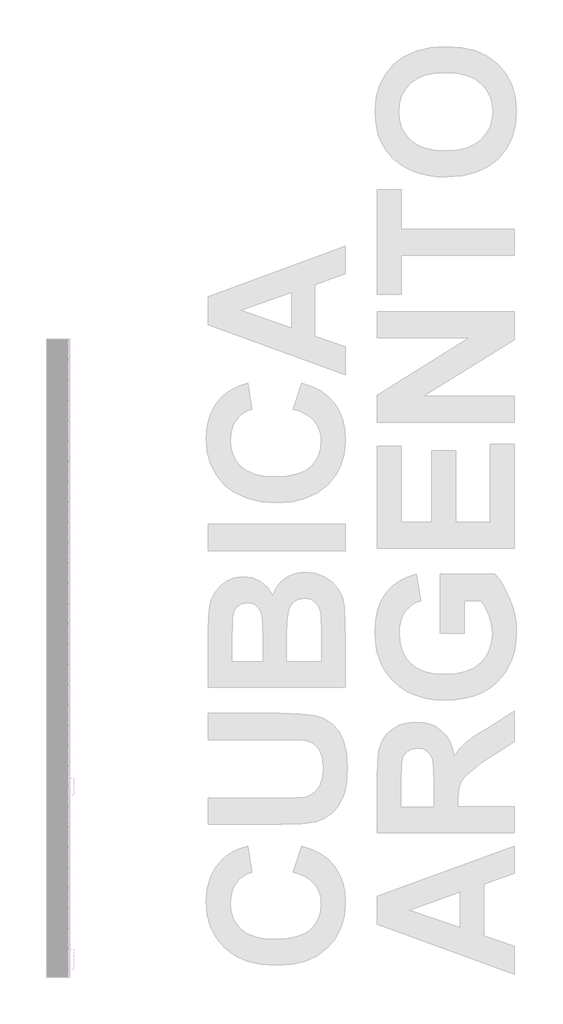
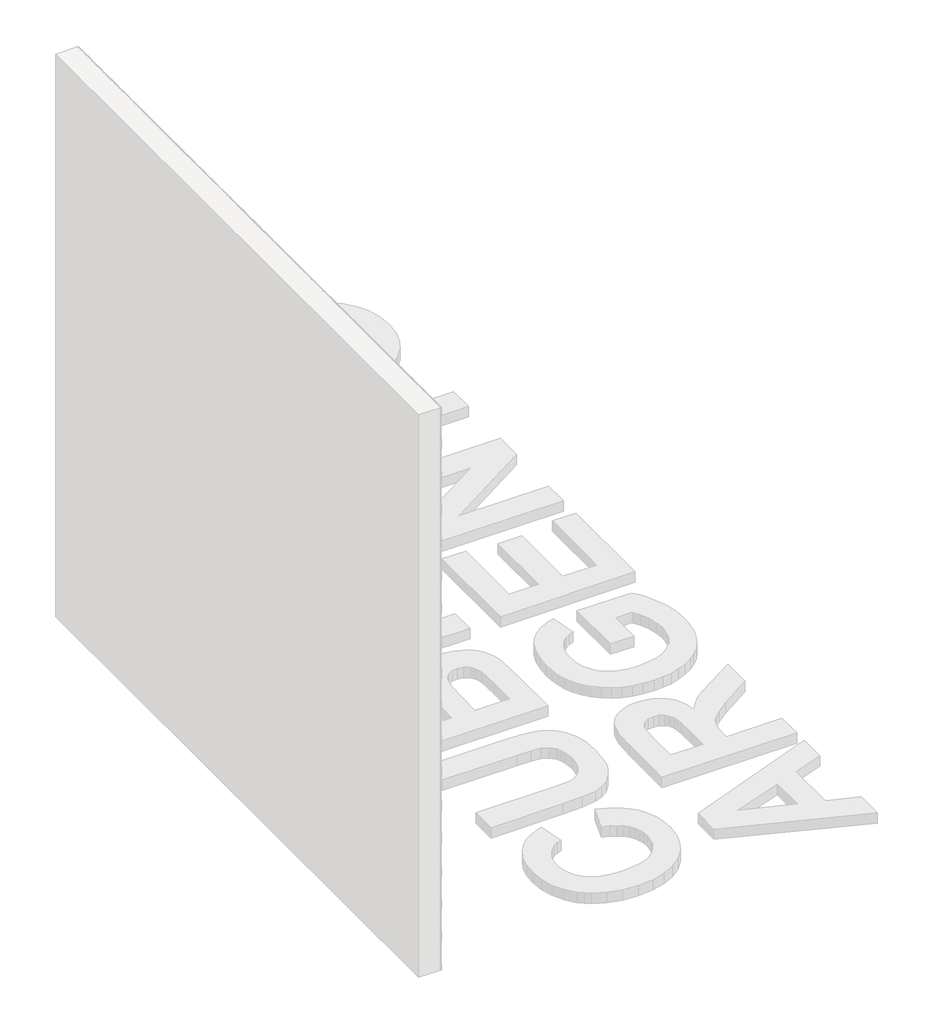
# One storey, part 17 of 121: 145 proxies.
"""IFC4 building model written with IfcOpenShell, lengths in millimetres."""

from ifc_helpers import new_model, si_unit, origin, place, context, project, spatial, transform, mapped, element, save
from components import generic_models_b2b2c5c1, generic_models_9bf73f6f, generic_models_5d175859

model = new_model("IFC4")

# Units and contexts
model_context = context("Model", 3, world=origin())
ifc_project = project(units=[si_unit("LENGTHUNIT", "METRE", prefix="MILLI")], contexts=[model_context])

# Site, building, storey
site = spatial("IfcSite", under=ifc_project)
building = spatial("IfcBuilding", under=site)
storey = spatial("IfcBuildingStorey", under=building, Name="PORTOBELLO - SHOWROOM", Elevation=0.0)

# Proxies
placement = place(None, origin())
generic_models_shape = generic_models_b2b2c5c1(model_context)
element("IfcBuildingElementProxy", 1, Name="PBSHOP - CUBICA ARGENTO 4,8X8,3 : CUBICA ARGENTO - POSIÇÃO 01", ObjectType="PBSHOP - CUBICA ARGENTO 4,8X8,3 : CUBICA ARGENTO - POSIÇÃO 01", at=placement, inside=storey, context=model_context, shape_type="MappedRepresentation", body=[
    mapped(generic_models_shape, transform((150369.5341846, -4950.0239465, 1460.2456575), x_axis=(0.0, 1.0, 0.0), y_axis=(0.0, 0.0, 1.0), z_axis=(1.0, 0.0, 0.0))),
])
element("IfcBuildingElementProxy", 2, Name="PBSHOP - CUBICA ARGENTO 4,8X8,3 : CUBICA ARGENTO - POSIÇÃO 01", ObjectType="PBSHOP - CUBICA ARGENTO 4,8X8,3 : CUBICA ARGENTO - POSIÇÃO 01", at=placement, inside=storey, context=model_context, shape_type="MappedRepresentation", body=[
    mapped(generic_models_shape, transform((150369.5341846, -4859.1846773, 1460.2456575), x_axis=(0.0, 1.0, 0.0), y_axis=(0.0, 0.0, 1.0), z_axis=(1.0, 0.0, 0.0))),
])
element("IfcBuildingElementProxy", 3, Name="PBSHOP - CUBICA ARGENTO 4,8X8,3 : CUBICA ARGENTO - POSIÇÃO 01", ObjectType="PBSHOP - CUBICA ARGENTO 4,8X8,3 : CUBICA ARGENTO - POSIÇÃO 01", at=placement, inside=storey, context=model_context, shape_type="MappedRepresentation", body=[
    mapped(generic_models_shape, transform((150369.5341846, -4768.345408, 1460.2456575), x_axis=(0.0, 1.0, 0.0), y_axis=(0.0, 0.0, 1.0), z_axis=(1.0, 0.0, 0.0))),
])
element("IfcBuildingElementProxy", 4, Name="PBSHOP - CUBICA ARGENTO 4,8X8,3 : CUBICA ARGENTO - POSIÇÃO 01", ObjectType="PBSHOP - CUBICA ARGENTO 4,8X8,3 : CUBICA ARGENTO - POSIÇÃO 01", at=placement, inside=storey, context=model_context, shape_type="MappedRepresentation", body=[
    mapped(generic_models_shape, transform((150369.5341846, -4677.5061388, 1460.2456575), x_axis=(0.0, 1.0, 0.0), y_axis=(0.0, 0.0, 1.0), z_axis=(1.0, 0.0, 0.0))),
])
element("IfcBuildingElementProxy", 5, Name="PBSHOP - CUBICA ARGENTO 4,8X8,3 : CUBICA ARGENTO - POSIÇÃO 01", ObjectType="PBSHOP - CUBICA ARGENTO 4,8X8,3 : CUBICA ARGENTO - POSIÇÃO 01", at=placement, inside=storey, context=model_context, shape_type="MappedRepresentation", body=[
    mapped(generic_models_shape, transform((150369.5341846, -4586.6668696, 1460.2456575), x_axis=(0.0, 1.0, 0.0), y_axis=(0.0, 0.0, 1.0), z_axis=(1.0, 0.0, 0.0))),
])
element("IfcBuildingElementProxy", 6, Name="PBSHOP - CUBICA ARGENTO 4,8X8,3 : CUBICA ARGENTO - POSIÇÃO 01", ObjectType="PBSHOP - CUBICA ARGENTO 4,8X8,3 : CUBICA ARGENTO - POSIÇÃO 01", at=placement, inside=storey, context=model_context, shape_type="MappedRepresentation", body=[
    mapped(generic_models_shape, transform((150369.5341846, -4495.8276003, 1460.2456575), x_axis=(0.0, 1.0, 0.0), y_axis=(0.0, 0.0, 1.0), z_axis=(1.0, 0.0, 0.0))),
])
element("IfcBuildingElementProxy", 7, Name="PBSHOP - CUBICA ARGENTO 4,8X8,3 : CUBICA ARGENTO - POSIÇÃO 01", ObjectType="PBSHOP - CUBICA ARGENTO 4,8X8,3 : CUBICA ARGENTO - POSIÇÃO 01", at=placement, inside=storey, context=model_context, shape_type="MappedRepresentation", body=[
    mapped(generic_models_shape, transform((150369.5341846, -4404.9883311, 1460.2456575), x_axis=(0.0, 1.0, 0.0), y_axis=(0.0, 0.0, 1.0), z_axis=(1.0, 0.0, 0.0))),
])
element("IfcBuildingElementProxy", 8, Name="PBSHOP - CUBICA ARGENTO 4,8X8,3 : CUBICA ARGENTO - POSIÇÃO 01", ObjectType="PBSHOP - CUBICA ARGENTO 4,8X8,3 : CUBICA ARGENTO - POSIÇÃO 01", at=placement, inside=storey, context=model_context, shape_type="MappedRepresentation", body=[
    mapped(generic_models_shape, transform((150369.5341846, -4314.1490618, 1460.2456575), x_axis=(0.0, 1.0, 0.0), y_axis=(0.0, 0.0, 1.0), z_axis=(1.0, 0.0, 0.0))),
])
element("IfcBuildingElementProxy", 9, Name="PBSHOP - CUBICA ARGENTO 4,8X8,3 : CUBICA ARGENTO - POSIÇÃO 01", ObjectType="PBSHOP - CUBICA ARGENTO 4,8X8,3 : CUBICA ARGENTO - POSIÇÃO 01", at=placement, inside=storey, context=model_context, shape_type="MappedRepresentation", body=[
    mapped(generic_models_shape, transform((150369.5341846, -4223.3097926, 1460.2456575), x_axis=(0.0, 1.0, 0.0), y_axis=(0.0, 0.0, 1.0), z_axis=(1.0, 0.0, 0.0))),
])
element("IfcBuildingElementProxy", 10, Name="PBSHOP - CUBICA ARGENTO 4,8X8,3 : CUBICA ARGENTO - POSIÇÃO 01", ObjectType="PBSHOP - CUBICA ARGENTO 4,8X8,3 : CUBICA ARGENTO - POSIÇÃO 01", at=placement, inside=storey, context=model_context, shape_type="MappedRepresentation", body=[
    mapped(generic_models_shape, transform((150369.5341846, -4132.4705233, 1460.2456575), x_axis=(0.0, 1.0, 0.0), y_axis=(0.0, 0.0, 1.0), z_axis=(1.0, 0.0, 0.0))),
])
element("IfcBuildingElementProxy", 11, Name="PBSHOP - CUBICA ARGENTO 4,8X8,3 : CUBICA ARGENTO - POSIÇÃO 01", ObjectType="PBSHOP - CUBICA ARGENTO 4,8X8,3 : CUBICA ARGENTO - POSIÇÃO 01", at=placement, inside=storey, context=model_context, shape_type="MappedRepresentation", body=[
    mapped(generic_models_shape, transform((150369.5341846, -4041.6312541, 1460.2456575), x_axis=(0.0, 1.0, 0.0), y_axis=(0.0, 0.0, 1.0), z_axis=(1.0, 0.0, 0.0))),
])
element("IfcBuildingElementProxy", 12, Name="PBSHOP - CUBICA ARGENTO 4,8X8,3 : CUBICA ARGENTO - POSIÇÃO 01", ObjectType="PBSHOP - CUBICA ARGENTO 4,8X8,3 : CUBICA ARGENTO - POSIÇÃO 01", at=placement, inside=storey, context=model_context, shape_type="MappedRepresentation", body=[
    mapped(generic_models_shape, transform((150369.5341846, -4995.4435811, 1539.1802959), x_axis=(0.0, 1.0, 0.0), y_axis=(0.0, 0.0, 1.0), z_axis=(1.0, 0.0, 0.0))),
])
element("IfcBuildingElementProxy", 13, Name="PBSHOP - CUBICA ARGENTO 4,8X8,3 : CUBICA ARGENTO - POSIÇÃO 01", ObjectType="PBSHOP - CUBICA ARGENTO 4,8X8,3 : CUBICA ARGENTO - POSIÇÃO 01", at=placement, inside=storey, context=model_context, shape_type="MappedRepresentation", body=[
    mapped(generic_models_shape, transform((150369.5341846, -4904.6043119, 1539.1802959), x_axis=(0.0, 1.0, 0.0), y_axis=(0.0, 0.0, 1.0), z_axis=(1.0, 0.0, 0.0))),
])
element("IfcBuildingElementProxy", 14, Name="PBSHOP - CUBICA ARGENTO 4,8X8,3 : CUBICA ARGENTO - POSIÇÃO 01", ObjectType="PBSHOP - CUBICA ARGENTO 4,8X8,3 : CUBICA ARGENTO - POSIÇÃO 01", at=placement, inside=storey, context=model_context, shape_type="MappedRepresentation", body=[
    mapped(generic_models_shape, transform((150369.5341846, -4813.7650427, 1539.1802959), x_axis=(0.0, 1.0, 0.0), y_axis=(0.0, 0.0, 1.0), z_axis=(1.0, 0.0, 0.0))),
])
element("IfcBuildingElementProxy", 15, Name="PBSHOP - CUBICA ARGENTO 4,8X8,3 : CUBICA ARGENTO - POSIÇÃO 01", ObjectType="PBSHOP - CUBICA ARGENTO 4,8X8,3 : CUBICA ARGENTO - POSIÇÃO 01", at=placement, inside=storey, context=model_context, shape_type="MappedRepresentation", body=[
    mapped(generic_models_shape, transform((150369.5341846, -4722.9257734, 1539.1802959), x_axis=(0.0, 1.0, 0.0), y_axis=(0.0, 0.0, 1.0), z_axis=(1.0, 0.0, 0.0))),
])
element("IfcBuildingElementProxy", 16, Name="PBSHOP - CUBICA ARGENTO 4,8X8,3 : CUBICA ARGENTO - POSIÇÃO 01", ObjectType="PBSHOP - CUBICA ARGENTO 4,8X8,3 : CUBICA ARGENTO - POSIÇÃO 01", at=placement, inside=storey, context=model_context, shape_type="MappedRepresentation", body=[
    mapped(generic_models_shape, transform((150369.5341846, -4632.0865042, 1539.1802959), x_axis=(0.0, 1.0, 0.0), y_axis=(0.0, 0.0, 1.0), z_axis=(1.0, 0.0, 0.0))),
])
element("IfcBuildingElementProxy", 17, Name="PBSHOP - CUBICA ARGENTO 4,8X8,3 : CUBICA ARGENTO - POSIÇÃO 01", ObjectType="PBSHOP - CUBICA ARGENTO 4,8X8,3 : CUBICA ARGENTO - POSIÇÃO 01", at=placement, inside=storey, context=model_context, shape_type="MappedRepresentation", body=[
    mapped(generic_models_shape, transform((150369.5341846, -4541.2472349, 1539.1802959), x_axis=(0.0, 1.0, 0.0), y_axis=(0.0, 0.0, 1.0), z_axis=(1.0, 0.0, 0.0))),
])
element("IfcBuildingElementProxy", 18, Name="PBSHOP - CUBICA ARGENTO 4,8X8,3 : CUBICA ARGENTO - POSIÇÃO 01", ObjectType="PBSHOP - CUBICA ARGENTO 4,8X8,3 : CUBICA ARGENTO - POSIÇÃO 01", at=placement, inside=storey, context=model_context, shape_type="MappedRepresentation", body=[
    mapped(generic_models_shape, transform((150369.5341846, -4450.4079657, 1539.1802959), x_axis=(0.0, 1.0, 0.0), y_axis=(0.0, 0.0, 1.0), z_axis=(1.0, 0.0, 0.0))),
])
element("IfcBuildingElementProxy", 19, Name="PBSHOP - CUBICA ARGENTO 4,8X8,3 : CUBICA ARGENTO - POSIÇÃO 01", ObjectType="PBSHOP - CUBICA ARGENTO 4,8X8,3 : CUBICA ARGENTO - POSIÇÃO 01", at=placement, inside=storey, context=model_context, shape_type="MappedRepresentation", body=[
    mapped(generic_models_shape, transform((150369.5341846, -4359.5686964, 1539.1802959), x_axis=(0.0, 1.0, 0.0), y_axis=(0.0, 0.0, 1.0), z_axis=(1.0, 0.0, 0.0))),
])
element("IfcBuildingElementProxy", 20, Name="PBSHOP - CUBICA ARGENTO 4,8X8,3 : CUBICA ARGENTO - POSIÇÃO 01", ObjectType="PBSHOP - CUBICA ARGENTO 4,8X8,3 : CUBICA ARGENTO - POSIÇÃO 01", at=placement, inside=storey, context=model_context, shape_type="MappedRepresentation", body=[
    mapped(generic_models_shape, transform((150369.5341846, -4268.7294272, 1539.1802959), x_axis=(0.0, 1.0, 0.0), y_axis=(0.0, 0.0, 1.0), z_axis=(1.0, 0.0, 0.0))),
])
element("IfcBuildingElementProxy", 21, Name="PBSHOP - CUBICA ARGENTO 4,8X8,3 : CUBICA ARGENTO - POSIÇÃO 01", ObjectType="PBSHOP - CUBICA ARGENTO 4,8X8,3 : CUBICA ARGENTO - POSIÇÃO 01", at=placement, inside=storey, context=model_context, shape_type="MappedRepresentation", body=[
    mapped(generic_models_shape, transform((150369.5341846, -4177.890158, 1539.1802959), x_axis=(0.0, 1.0, 0.0), y_axis=(0.0, 0.0, 1.0), z_axis=(1.0, 0.0, 0.0))),
])
element("IfcBuildingElementProxy", 22, Name="PBSHOP - CUBICA ARGENTO 4,8X8,3 : CUBICA ARGENTO - POSIÇÃO 01", ObjectType="PBSHOP - CUBICA ARGENTO 4,8X8,3 : CUBICA ARGENTO - POSIÇÃO 01", at=placement, inside=storey, context=model_context, shape_type="MappedRepresentation", body=[
    mapped(generic_models_shape, transform((150369.5341846, -4087.0508887, 1539.1802959), x_axis=(0.0, 1.0, 0.0), y_axis=(0.0, 0.0, 1.0), z_axis=(1.0, 0.0, 0.0))),
])
element("IfcBuildingElementProxy", 23, Name="PBSHOP - CUBICA ARGENTO 4,8X8,3 : CUBICA ARGENTO - POSIÇÃO 01", ObjectType="PBSHOP - CUBICA ARGENTO 4,8X8,3 : CUBICA ARGENTO - POSIÇÃO 01", at=placement, inside=storey, context=model_context, shape_type="MappedRepresentation", body=[
    mapped(generic_models_shape, transform((150369.5341846, -4950.0239465, 1618.1149343), x_axis=(0.0, 1.0, 0.0), y_axis=(0.0, 0.0, 1.0), z_axis=(1.0, 0.0, 0.0))),
])
element("IfcBuildingElementProxy", 24, Name="PBSHOP - CUBICA ARGENTO 4,8X8,3 : CUBICA ARGENTO - POSIÇÃO 01", ObjectType="PBSHOP - CUBICA ARGENTO 4,8X8,3 : CUBICA ARGENTO - POSIÇÃO 01", at=placement, inside=storey, context=model_context, shape_type="MappedRepresentation", body=[
    mapped(generic_models_shape, transform((150369.5341846, -4859.1846773, 1618.1149343), x_axis=(0.0, 1.0, 0.0), y_axis=(0.0, 0.0, 1.0), z_axis=(1.0, 0.0, 0.0))),
])
element("IfcBuildingElementProxy", 25, Name="PBSHOP - CUBICA ARGENTO 4,8X8,3 : CUBICA ARGENTO - POSIÇÃO 01", ObjectType="PBSHOP - CUBICA ARGENTO 4,8X8,3 : CUBICA ARGENTO - POSIÇÃO 01", at=placement, inside=storey, context=model_context, shape_type="MappedRepresentation", body=[
    mapped(generic_models_shape, transform((150369.5341846, -4768.345408, 1618.1149343), x_axis=(0.0, 1.0, 0.0), y_axis=(0.0, 0.0, 1.0), z_axis=(1.0, 0.0, 0.0))),
])
element("IfcBuildingElementProxy", 26, Name="PBSHOP - CUBICA ARGENTO 4,8X8,3 : CUBICA ARGENTO - POSIÇÃO 01", ObjectType="PBSHOP - CUBICA ARGENTO 4,8X8,3 : CUBICA ARGENTO - POSIÇÃO 01", at=placement, inside=storey, context=model_context, shape_type="MappedRepresentation", body=[
    mapped(generic_models_shape, transform((150369.5341846, -4677.5061388, 1618.1149343), x_axis=(0.0, 1.0, 0.0), y_axis=(0.0, 0.0, 1.0), z_axis=(1.0, 0.0, 0.0))),
])
element("IfcBuildingElementProxy", 27, Name="PBSHOP - CUBICA ARGENTO 4,8X8,3 : CUBICA ARGENTO - POSIÇÃO 01", ObjectType="PBSHOP - CUBICA ARGENTO 4,8X8,3 : CUBICA ARGENTO - POSIÇÃO 01", at=placement, inside=storey, context=model_context, shape_type="MappedRepresentation", body=[
    mapped(generic_models_shape, transform((150369.5341846, -4586.6668696, 1618.1149343), x_axis=(0.0, 1.0, 0.0), y_axis=(0.0, 0.0, 1.0), z_axis=(1.0, 0.0, 0.0))),
])
element("IfcBuildingElementProxy", 28, Name="PBSHOP - CUBICA ARGENTO 4,8X8,3 : CUBICA ARGENTO - POSIÇÃO 01", ObjectType="PBSHOP - CUBICA ARGENTO 4,8X8,3 : CUBICA ARGENTO - POSIÇÃO 01", at=placement, inside=storey, context=model_context, shape_type="MappedRepresentation", body=[
    mapped(generic_models_shape, transform((150369.5341846, -4495.8276003, 1618.1149343), x_axis=(0.0, 1.0, 0.0), y_axis=(0.0, 0.0, 1.0), z_axis=(1.0, 0.0, 0.0))),
])
element("IfcBuildingElementProxy", 29, Name="PBSHOP - CUBICA ARGENTO 4,8X8,3 : CUBICA ARGENTO - POSIÇÃO 01", ObjectType="PBSHOP - CUBICA ARGENTO 4,8X8,3 : CUBICA ARGENTO - POSIÇÃO 01", at=placement, inside=storey, context=model_context, shape_type="MappedRepresentation", body=[
    mapped(generic_models_shape, transform((150369.5341846, -4404.9883311, 1618.1149343), x_axis=(0.0, 1.0, 0.0), y_axis=(0.0, 0.0, 1.0), z_axis=(1.0, 0.0, 0.0))),
])
element("IfcBuildingElementProxy", 30, Name="PBSHOP - CUBICA ARGENTO 4,8X8,3 : CUBICA ARGENTO - POSIÇÃO 01", ObjectType="PBSHOP - CUBICA ARGENTO 4,8X8,3 : CUBICA ARGENTO - POSIÇÃO 01", at=placement, inside=storey, context=model_context, shape_type="MappedRepresentation", body=[
    mapped(generic_models_shape, transform((150369.5341846, -4314.1490618, 1618.1149343), x_axis=(0.0, 1.0, 0.0), y_axis=(0.0, 0.0, 1.0), z_axis=(1.0, 0.0, 0.0))),
])
element("IfcBuildingElementProxy", 31, Name="PBSHOP - CUBICA ARGENTO 4,8X8,3 : CUBICA ARGENTO - POSIÇÃO 01", ObjectType="PBSHOP - CUBICA ARGENTO 4,8X8,3 : CUBICA ARGENTO - POSIÇÃO 01", at=placement, inside=storey, context=model_context, shape_type="MappedRepresentation", body=[
    mapped(generic_models_shape, transform((150369.5341846, -4223.3097926, 1618.1149343), x_axis=(0.0, 1.0, 0.0), y_axis=(0.0, 0.0, 1.0), z_axis=(1.0, 0.0, 0.0))),
])
element("IfcBuildingElementProxy", 32, Name="PBSHOP - CUBICA ARGENTO 4,8X8,3 : CUBICA ARGENTO - POSIÇÃO 01", ObjectType="PBSHOP - CUBICA ARGENTO 4,8X8,3 : CUBICA ARGENTO - POSIÇÃO 01", at=placement, inside=storey, context=model_context, shape_type="MappedRepresentation", body=[
    mapped(generic_models_shape, transform((150369.5341846, -4132.4705233, 1618.1149343), x_axis=(0.0, 1.0, 0.0), y_axis=(0.0, 0.0, 1.0), z_axis=(1.0, 0.0, 0.0))),
])
element("IfcBuildingElementProxy", 33, Name="PBSHOP - CUBICA ARGENTO 4,8X8,3 : CUBICA ARGENTO - POSIÇÃO 01", ObjectType="PBSHOP - CUBICA ARGENTO 4,8X8,3 : CUBICA ARGENTO - POSIÇÃO 01", at=placement, inside=storey, context=model_context, shape_type="MappedRepresentation", body=[
    mapped(generic_models_shape, transform((150369.5341846, -4041.6312541, 1618.1149343), x_axis=(0.0, 1.0, 0.0), y_axis=(0.0, 0.0, 1.0), z_axis=(1.0, 0.0, 0.0))),
])
element("IfcBuildingElementProxy", 34, Name="PBSHOP - CUBICA ARGENTO 4,8X8,3 : CUBICA ARGENTO - POSIÇÃO 01", ObjectType="PBSHOP - CUBICA ARGENTO 4,8X8,3 : CUBICA ARGENTO - POSIÇÃO 01", at=placement, inside=storey, context=model_context, shape_type="MappedRepresentation", body=[
    mapped(generic_models_shape, transform((150369.5341846, -4995.4435811, 1697.0495727), x_axis=(0.0, 1.0, 0.0), y_axis=(0.0, 0.0, 1.0), z_axis=(1.0, 0.0, 0.0))),
])
element("IfcBuildingElementProxy", 35, Name="PBSHOP - CUBICA ARGENTO 4,8X8,3 : CUBICA ARGENTO - POSIÇÃO 01", ObjectType="PBSHOP - CUBICA ARGENTO 4,8X8,3 : CUBICA ARGENTO - POSIÇÃO 01", at=placement, inside=storey, context=model_context, shape_type="MappedRepresentation", body=[
    mapped(generic_models_shape, transform((150369.5341846, -4904.6043119, 1697.0495727), x_axis=(0.0, 1.0, 0.0), y_axis=(0.0, 0.0, 1.0), z_axis=(1.0, 0.0, 0.0))),
])
element("IfcBuildingElementProxy", 36, Name="PBSHOP - CUBICA ARGENTO 4,8X8,3 : CUBICA ARGENTO - POSIÇÃO 01", ObjectType="PBSHOP - CUBICA ARGENTO 4,8X8,3 : CUBICA ARGENTO - POSIÇÃO 01", at=placement, inside=storey, context=model_context, shape_type="MappedRepresentation", body=[
    mapped(generic_models_shape, transform((150369.5341846, -4813.7650427, 1697.0495727), x_axis=(0.0, 1.0, 0.0), y_axis=(0.0, 0.0, 1.0), z_axis=(1.0, 0.0, 0.0))),
])
element("IfcBuildingElementProxy", 37, Name="PBSHOP - CUBICA ARGENTO 4,8X8,3 : CUBICA ARGENTO - POSIÇÃO 01", ObjectType="PBSHOP - CUBICA ARGENTO 4,8X8,3 : CUBICA ARGENTO - POSIÇÃO 01", at=placement, inside=storey, context=model_context, shape_type="MappedRepresentation", body=[
    mapped(generic_models_shape, transform((150369.5341846, -4722.9257734, 1697.0495727), x_axis=(0.0, 1.0, 0.0), y_axis=(0.0, 0.0, 1.0), z_axis=(1.0, 0.0, 0.0))),
])
element("IfcBuildingElementProxy", 38, Name="PBSHOP - CUBICA ARGENTO 4,8X8,3 : CUBICA ARGENTO - POSIÇÃO 01", ObjectType="PBSHOP - CUBICA ARGENTO 4,8X8,3 : CUBICA ARGENTO - POSIÇÃO 01", at=placement, inside=storey, context=model_context, shape_type="MappedRepresentation", body=[
    mapped(generic_models_shape, transform((150369.5341846, -4632.0865042, 1697.0495727), x_axis=(0.0, 1.0, 0.0), y_axis=(0.0, 0.0, 1.0), z_axis=(1.0, 0.0, 0.0))),
])
element("IfcBuildingElementProxy", 39, Name="PBSHOP - CUBICA ARGENTO 4,8X8,3 : CUBICA ARGENTO - POSIÇÃO 01", ObjectType="PBSHOP - CUBICA ARGENTO 4,8X8,3 : CUBICA ARGENTO - POSIÇÃO 01", at=placement, inside=storey, context=model_context, shape_type="MappedRepresentation", body=[
    mapped(generic_models_shape, transform((150369.5341846, -4541.2472349, 1697.0495727), x_axis=(0.0, 1.0, 0.0), y_axis=(0.0, 0.0, 1.0), z_axis=(1.0, 0.0, 0.0))),
])
element("IfcBuildingElementProxy", 40, Name="PBSHOP - CUBICA ARGENTO 4,8X8,3 : CUBICA ARGENTO - POSIÇÃO 01", ObjectType="PBSHOP - CUBICA ARGENTO 4,8X8,3 : CUBICA ARGENTO - POSIÇÃO 01", at=placement, inside=storey, context=model_context, shape_type="MappedRepresentation", body=[
    mapped(generic_models_shape, transform((150369.5341846, -4450.4079657, 1697.0495727), x_axis=(0.0, 1.0, 0.0), y_axis=(0.0, 0.0, 1.0), z_axis=(1.0, 0.0, 0.0))),
])
element("IfcBuildingElementProxy", 41, Name="PBSHOP - CUBICA ARGENTO 4,8X8,3 : CUBICA ARGENTO - POSIÇÃO 01", ObjectType="PBSHOP - CUBICA ARGENTO 4,8X8,3 : CUBICA ARGENTO - POSIÇÃO 01", at=placement, inside=storey, context=model_context, shape_type="MappedRepresentation", body=[
    mapped(generic_models_shape, transform((150369.5341846, -4359.5686964, 1697.0495727), x_axis=(0.0, 1.0, 0.0), y_axis=(0.0, 0.0, 1.0), z_axis=(1.0, 0.0, 0.0))),
])
element("IfcBuildingElementProxy", 42, Name="PBSHOP - CUBICA ARGENTO 4,8X8,3 : CUBICA ARGENTO - POSIÇÃO 01", ObjectType="PBSHOP - CUBICA ARGENTO 4,8X8,3 : CUBICA ARGENTO - POSIÇÃO 01", at=placement, inside=storey, context=model_context, shape_type="MappedRepresentation", body=[
    mapped(generic_models_shape, transform((150369.5341846, -4268.7294272, 1697.0495727), x_axis=(0.0, 1.0, 0.0), y_axis=(0.0, 0.0, 1.0), z_axis=(1.0, 0.0, 0.0))),
])
element("IfcBuildingElementProxy", 43, Name="PBSHOP - CUBICA ARGENTO 4,8X8,3 : CUBICA ARGENTO - POSIÇÃO 01", ObjectType="PBSHOP - CUBICA ARGENTO 4,8X8,3 : CUBICA ARGENTO - POSIÇÃO 01", at=placement, inside=storey, context=model_context, shape_type="MappedRepresentation", body=[
    mapped(generic_models_shape, transform((150369.5341846, -4177.890158, 1697.0495727), x_axis=(0.0, 1.0, 0.0), y_axis=(0.0, 0.0, 1.0), z_axis=(1.0, 0.0, 0.0))),
])
element("IfcBuildingElementProxy", 44, Name="PBSHOP - CUBICA ARGENTO 4,8X8,3 : CUBICA ARGENTO - POSIÇÃO 01", ObjectType="PBSHOP - CUBICA ARGENTO 4,8X8,3 : CUBICA ARGENTO - POSIÇÃO 01", at=placement, inside=storey, context=model_context, shape_type="MappedRepresentation", body=[
    mapped(generic_models_shape, transform((150369.5341846, -4087.0508887, 1697.0495727), x_axis=(0.0, 1.0, 0.0), y_axis=(0.0, 0.0, 1.0), z_axis=(1.0, 0.0, 0.0))),
])
element("IfcBuildingElementProxy", 45, Name="PBSHOP - CUBICA ARGENTO 4,8X8,3 : CUBICA ARGENTO - POSIÇÃO 01", ObjectType="PBSHOP - CUBICA ARGENTO 4,8X8,3 : CUBICA ARGENTO - POSIÇÃO 01", at=placement, inside=storey, context=model_context, shape_type="MappedRepresentation", body=[
    mapped(generic_models_shape, transform((150369.5341846, -4950.0239465, 1775.984211), x_axis=(0.0, 1.0, 0.0), y_axis=(0.0, 0.0, 1.0), z_axis=(1.0, 0.0, 0.0))),
])
generic_models_2_shape = generic_models_9bf73f6f(model_context)
element("IfcBuildingElementProxy", 46, Name="PBSHOP - CUBICA ARGENTO 4,8X8,3 : CUBICA ARGENTO - POSIÇÃO 03", ObjectType="PBSHOP - CUBICA ARGENTO 4,8X8,3 : CUBICA ARGENTO - POSIÇÃO 03", at=placement, inside=storey, context=model_context, shape_type="MappedRepresentation", body=[
    mapped(generic_models_2_shape, transform((150369.5341846, -4836.4727008, 1341.8024896), x_axis=(0.0, 1.0, 0.0), y_axis=(0.0, 0.0, 1.0), z_axis=(1.0, 0.0, 0.0))),
])
element("IfcBuildingElementProxy", 47, Name="PBSHOP - CUBICA ARGENTO 4,8X8,3 : CUBICA ARGENTO - POSIÇÃO 03", ObjectType="PBSHOP - CUBICA ARGENTO 4,8X8,3 : CUBICA ARGENTO - POSIÇÃO 03", at=placement, inside=storey, context=model_context, shape_type="MappedRepresentation", body=[
    mapped(generic_models_2_shape, transform((150369.5341846, -4745.6334316, 1341.8024896), x_axis=(0.0, 1.0, 0.0), y_axis=(0.0, 0.0, 1.0), z_axis=(1.0, 0.0, 0.0))),
])
element("IfcBuildingElementProxy", 48, Name="PBSHOP - CUBICA ARGENTO 4,8X8,3 : CUBICA ARGENTO - POSIÇÃO 03", ObjectType="PBSHOP - CUBICA ARGENTO 4,8X8,3 : CUBICA ARGENTO - POSIÇÃO 03", at=placement, inside=storey, context=model_context, shape_type="MappedRepresentation", body=[
    mapped(generic_models_2_shape, transform((150369.5341846, -4654.7941623, 1341.8024896), x_axis=(0.0, 1.0, 0.0), y_axis=(0.0, 0.0, 1.0), z_axis=(1.0, 0.0, 0.0))),
])
element("IfcBuildingElementProxy", 49, Name="PBSHOP - CUBICA ARGENTO 4,8X8,3 : CUBICA ARGENTO - POSIÇÃO 03", ObjectType="PBSHOP - CUBICA ARGENTO 4,8X8,3 : CUBICA ARGENTO - POSIÇÃO 03", at=placement, inside=storey, context=model_context, shape_type="MappedRepresentation", body=[
    mapped(generic_models_2_shape, transform((150369.5341846, -4563.9548931, 1341.8024896), x_axis=(0.0, 1.0, 0.0), y_axis=(0.0, 0.0, 1.0), z_axis=(1.0, 0.0, 0.0))),
])
element("IfcBuildingElementProxy", 50, Name="PBSHOP - CUBICA ARGENTO 4,8X8,3 : CUBICA ARGENTO - POSIÇÃO 03", ObjectType="PBSHOP - CUBICA ARGENTO 4,8X8,3 : CUBICA ARGENTO - POSIÇÃO 03", at=placement, inside=storey, context=model_context, shape_type="MappedRepresentation", body=[
    mapped(generic_models_2_shape, transform((150369.5341846, -4473.1156238, 1341.8024896), x_axis=(0.0, 1.0, 0.0), y_axis=(0.0, 0.0, 1.0), z_axis=(1.0, 0.0, 0.0))),
])
element("IfcBuildingElementProxy", 51, Name="PBSHOP - CUBICA ARGENTO 4,8X8,3 : CUBICA ARGENTO - POSIÇÃO 03", ObjectType="PBSHOP - CUBICA ARGENTO 4,8X8,3 : CUBICA ARGENTO - POSIÇÃO 03", at=placement, inside=storey, context=model_context, shape_type="MappedRepresentation", body=[
    mapped(generic_models_2_shape, transform((150369.5341846, -4382.2763546, 1341.8024896), x_axis=(0.0, 1.0, 0.0), y_axis=(0.0, 0.0, 1.0), z_axis=(1.0, 0.0, 0.0))),
])
element("IfcBuildingElementProxy", 52, Name="PBSHOP - CUBICA ARGENTO 4,8X8,3 : CUBICA ARGENTO - POSIÇÃO 03", ObjectType="PBSHOP - CUBICA ARGENTO 4,8X8,3 : CUBICA ARGENTO - POSIÇÃO 03", at=placement, inside=storey, context=model_context, shape_type="MappedRepresentation", body=[
    mapped(generic_models_2_shape, transform((150369.5341846, -4291.4370853, 1341.8024896), x_axis=(0.0, 1.0, 0.0), y_axis=(0.0, 0.0, 1.0), z_axis=(1.0, 0.0, 0.0))),
])
element("IfcBuildingElementProxy", 53, Name="PBSHOP - CUBICA ARGENTO 4,8X8,3 : CUBICA ARGENTO - POSIÇÃO 03", ObjectType="PBSHOP - CUBICA ARGENTO 4,8X8,3 : CUBICA ARGENTO - POSIÇÃO 03", at=placement, inside=storey, context=model_context, shape_type="MappedRepresentation", body=[
    mapped(generic_models_2_shape, transform((150369.5341846, -4200.5978161, 1341.8024896), x_axis=(0.0, 1.0, 0.0), y_axis=(0.0, 0.0, 1.0), z_axis=(1.0, 0.0, 0.0))),
])
element("IfcBuildingElementProxy", 54, Name="PBSHOP - CUBICA ARGENTO 4,8X8,3 : CUBICA ARGENTO - POSIÇÃO 03", ObjectType="PBSHOP - CUBICA ARGENTO 4,8X8,3 : CUBICA ARGENTO - POSIÇÃO 03", at=placement, inside=storey, context=model_context, shape_type="MappedRepresentation", body=[
    mapped(generic_models_2_shape, transform((150369.5341846, -4109.7585469, 1341.8024896), x_axis=(0.0, 1.0, 0.0), y_axis=(0.0, 0.0, 1.0), z_axis=(1.0, 0.0, 0.0))),
])
element("IfcBuildingElementProxy", 55, Name="PBSHOP - CUBICA ARGENTO 4,8X8,3 : CUBICA ARGENTO - POSIÇÃO 03", ObjectType="PBSHOP - CUBICA ARGENTO 4,8X8,3 : CUBICA ARGENTO - POSIÇÃO 03", at=placement, inside=storey, context=model_context, shape_type="MappedRepresentation", body=[
    mapped(generic_models_2_shape, transform((150369.5341846, -4018.9192776, 1341.8024896), x_axis=(0.0, 1.0, 0.0), y_axis=(0.0, 0.0, 1.0), z_axis=(1.0, 0.0, 0.0))),
])
element("IfcBuildingElementProxy", 56, Name="PBSHOP - CUBICA ARGENTO 4,8X8,3 : CUBICA ARGENTO - POSIÇÃO 03", ObjectType="PBSHOP - CUBICA ARGENTO 4,8X8,3 : CUBICA ARGENTO - POSIÇÃO 03", at=placement, inside=storey, context=model_context, shape_type="MappedRepresentation", body=[
    mapped(generic_models_2_shape, transform((150369.5341846, -4972.7316047, 1420.7371279), x_axis=(0.0, 1.0, 0.0), y_axis=(0.0, 0.0, 1.0), z_axis=(1.0, 0.0, 0.0))),
])
element("IfcBuildingElementProxy", 57, Name="PBSHOP - CUBICA ARGENTO 4,8X8,3 : CUBICA ARGENTO - POSIÇÃO 03", ObjectType="PBSHOP - CUBICA ARGENTO 4,8X8,3 : CUBICA ARGENTO - POSIÇÃO 03", at=placement, inside=storey, context=model_context, shape_type="MappedRepresentation", body=[
    mapped(generic_models_2_shape, transform((150369.5341846, -4881.8923354, 1420.7371279), x_axis=(0.0, 1.0, 0.0), y_axis=(0.0, 0.0, 1.0), z_axis=(1.0, 0.0, 0.0))),
])
element("IfcBuildingElementProxy", 58, Name="PBSHOP - CUBICA ARGENTO 4,8X8,3 : CUBICA ARGENTO - POSIÇÃO 03", ObjectType="PBSHOP - CUBICA ARGENTO 4,8X8,3 : CUBICA ARGENTO - POSIÇÃO 03", at=placement, inside=storey, context=model_context, shape_type="MappedRepresentation", body=[
    mapped(generic_models_2_shape, transform((150369.5341846, -4791.0530662, 1420.7371279), x_axis=(0.0, 1.0, 0.0), y_axis=(0.0, 0.0, 1.0), z_axis=(1.0, 0.0, 0.0))),
])
element("IfcBuildingElementProxy", 59, Name="PBSHOP - CUBICA ARGENTO 4,8X8,3 : CUBICA ARGENTO - POSIÇÃO 03", ObjectType="PBSHOP - CUBICA ARGENTO 4,8X8,3 : CUBICA ARGENTO - POSIÇÃO 03", at=placement, inside=storey, context=model_context, shape_type="MappedRepresentation", body=[
    mapped(generic_models_2_shape, transform((150369.5341846, -4700.2137969, 1420.7371279), x_axis=(0.0, 1.0, 0.0), y_axis=(0.0, 0.0, 1.0), z_axis=(1.0, 0.0, 0.0))),
])
element("IfcBuildingElementProxy", 60, Name="PBSHOP - CUBICA ARGENTO 4,8X8,3 : CUBICA ARGENTO - POSIÇÃO 03", ObjectType="PBSHOP - CUBICA ARGENTO 4,8X8,3 : CUBICA ARGENTO - POSIÇÃO 03", at=placement, inside=storey, context=model_context, shape_type="MappedRepresentation", body=[
    mapped(generic_models_2_shape, transform((150369.5341846, -4609.3745277, 1420.7371279), x_axis=(0.0, 1.0, 0.0), y_axis=(0.0, 0.0, 1.0), z_axis=(1.0, 0.0, 0.0))),
])
element("IfcBuildingElementProxy", 61, Name="PBSHOP - CUBICA ARGENTO 4,8X8,3 : CUBICA ARGENTO - POSIÇÃO 03", ObjectType="PBSHOP - CUBICA ARGENTO 4,8X8,3 : CUBICA ARGENTO - POSIÇÃO 03", at=placement, inside=storey, context=model_context, shape_type="MappedRepresentation", body=[
    mapped(generic_models_2_shape, transform((150369.5341846, -4518.5352585, 1420.7371279), x_axis=(0.0, 1.0, 0.0), y_axis=(0.0, 0.0, 1.0), z_axis=(1.0, 0.0, 0.0))),
])
element("IfcBuildingElementProxy", 62, Name="PBSHOP - CUBICA ARGENTO 4,8X8,3 : CUBICA ARGENTO - POSIÇÃO 03", ObjectType="PBSHOP - CUBICA ARGENTO 4,8X8,3 : CUBICA ARGENTO - POSIÇÃO 03", at=placement, inside=storey, context=model_context, shape_type="MappedRepresentation", body=[
    mapped(generic_models_2_shape, transform((150369.5341846, -4427.6959892, 1420.7371279), x_axis=(0.0, 1.0, 0.0), y_axis=(0.0, 0.0, 1.0), z_axis=(1.0, 0.0, 0.0))),
])
element("IfcBuildingElementProxy", 63, Name="PBSHOP - CUBICA ARGENTO 4,8X8,3 : CUBICA ARGENTO - POSIÇÃO 03", ObjectType="PBSHOP - CUBICA ARGENTO 4,8X8,3 : CUBICA ARGENTO - POSIÇÃO 03", at=placement, inside=storey, context=model_context, shape_type="MappedRepresentation", body=[
    mapped(generic_models_2_shape, transform((150369.5341846, -4336.85672, 1420.7371279), x_axis=(0.0, 1.0, 0.0), y_axis=(0.0, 0.0, 1.0), z_axis=(1.0, 0.0, 0.0))),
])
element("IfcBuildingElementProxy", 64, Name="PBSHOP - CUBICA ARGENTO 4,8X8,3 : CUBICA ARGENTO - POSIÇÃO 03", ObjectType="PBSHOP - CUBICA ARGENTO 4,8X8,3 : CUBICA ARGENTO - POSIÇÃO 03", at=placement, inside=storey, context=model_context, shape_type="MappedRepresentation", body=[
    mapped(generic_models_2_shape, transform((150369.5341846, -4246.0174507, 1420.7371279), x_axis=(0.0, 1.0, 0.0), y_axis=(0.0, 0.0, 1.0), z_axis=(1.0, 0.0, 0.0))),
])
element("IfcBuildingElementProxy", 65, Name="PBSHOP - CUBICA ARGENTO 4,8X8,3 : CUBICA ARGENTO - POSIÇÃO 03", ObjectType="PBSHOP - CUBICA ARGENTO 4,8X8,3 : CUBICA ARGENTO - POSIÇÃO 03", at=placement, inside=storey, context=model_context, shape_type="MappedRepresentation", body=[
    mapped(generic_models_2_shape, transform((150369.5341846, -4155.1781815, 1420.7371279), x_axis=(0.0, 1.0, 0.0), y_axis=(0.0, 0.0, 1.0), z_axis=(1.0, 0.0, 0.0))),
])
element("IfcBuildingElementProxy", 66, Name="PBSHOP - CUBICA ARGENTO 4,8X8,3 : CUBICA ARGENTO - POSIÇÃO 03", ObjectType="PBSHOP - CUBICA ARGENTO 4,8X8,3 : CUBICA ARGENTO - POSIÇÃO 03", at=placement, inside=storey, context=model_context, shape_type="MappedRepresentation", body=[
    mapped(generic_models_2_shape, transform((150369.5341846, -4064.3389122, 1420.7371279), x_axis=(0.0, 1.0, 0.0), y_axis=(0.0, 0.0, 1.0), z_axis=(1.0, 0.0, 0.0))),
])
element("IfcBuildingElementProxy", 67, Name="PBSHOP - CUBICA ARGENTO 4,8X8,3 : CUBICA ARGENTO - POSIÇÃO 03", ObjectType="PBSHOP - CUBICA ARGENTO 4,8X8,3 : CUBICA ARGENTO - POSIÇÃO 03", at=placement, inside=storey, context=model_context, shape_type="MappedRepresentation", body=[
    mapped(generic_models_2_shape, transform((150369.5341846, -4927.3119701, 1499.6717663), x_axis=(0.0, 1.0, 0.0), y_axis=(0.0, 0.0, 1.0), z_axis=(1.0, 0.0, 0.0))),
])
element("IfcBuildingElementProxy", 68, Name="PBSHOP - CUBICA ARGENTO 4,8X8,3 : CUBICA ARGENTO - POSIÇÃO 03", ObjectType="PBSHOP - CUBICA ARGENTO 4,8X8,3 : CUBICA ARGENTO - POSIÇÃO 03", at=placement, inside=storey, context=model_context, shape_type="MappedRepresentation", body=[
    mapped(generic_models_2_shape, transform((150369.5341846, -4836.4727008, 1499.6717663), x_axis=(0.0, 1.0, 0.0), y_axis=(0.0, 0.0, 1.0), z_axis=(1.0, 0.0, 0.0))),
])
element("IfcBuildingElementProxy", 69, Name="PBSHOP - CUBICA ARGENTO 4,8X8,3 : CUBICA ARGENTO - POSIÇÃO 03", ObjectType="PBSHOP - CUBICA ARGENTO 4,8X8,3 : CUBICA ARGENTO - POSIÇÃO 03", at=placement, inside=storey, context=model_context, shape_type="MappedRepresentation", body=[
    mapped(generic_models_2_shape, transform((150369.5341846, -4745.6334316, 1499.6717663), x_axis=(0.0, 1.0, 0.0), y_axis=(0.0, 0.0, 1.0), z_axis=(1.0, 0.0, 0.0))),
])
element("IfcBuildingElementProxy", 70, Name="PBSHOP - CUBICA ARGENTO 4,8X8,3 : CUBICA ARGENTO - POSIÇÃO 03", ObjectType="PBSHOP - CUBICA ARGENTO 4,8X8,3 : CUBICA ARGENTO - POSIÇÃO 03", at=placement, inside=storey, context=model_context, shape_type="MappedRepresentation", body=[
    mapped(generic_models_2_shape, transform((150369.5341846, -4654.7941623, 1499.6717663), x_axis=(0.0, 1.0, 0.0), y_axis=(0.0, 0.0, 1.0), z_axis=(1.0, 0.0, 0.0))),
])
element("IfcBuildingElementProxy", 71, Name="PBSHOP - CUBICA ARGENTO 4,8X8,3 : CUBICA ARGENTO - POSIÇÃO 03", ObjectType="PBSHOP - CUBICA ARGENTO 4,8X8,3 : CUBICA ARGENTO - POSIÇÃO 03", at=placement, inside=storey, context=model_context, shape_type="MappedRepresentation", body=[
    mapped(generic_models_2_shape, transform((150369.5341846, -4563.9548931, 1499.6717663), x_axis=(0.0, 1.0, 0.0), y_axis=(0.0, 0.0, 1.0), z_axis=(1.0, 0.0, 0.0))),
])
element("IfcBuildingElementProxy", 72, Name="PBSHOP - CUBICA ARGENTO 4,8X8,3 : CUBICA ARGENTO - POSIÇÃO 03", ObjectType="PBSHOP - CUBICA ARGENTO 4,8X8,3 : CUBICA ARGENTO - POSIÇÃO 03", at=placement, inside=storey, context=model_context, shape_type="MappedRepresentation", body=[
    mapped(generic_models_2_shape, transform((150369.5341846, -4473.1156238, 1499.6717663), x_axis=(0.0, 1.0, 0.0), y_axis=(0.0, 0.0, 1.0), z_axis=(1.0, 0.0, 0.0))),
])
element("IfcBuildingElementProxy", 73, Name="PBSHOP - CUBICA ARGENTO 4,8X8,3 : CUBICA ARGENTO - POSIÇÃO 03", ObjectType="PBSHOP - CUBICA ARGENTO 4,8X8,3 : CUBICA ARGENTO - POSIÇÃO 03", at=placement, inside=storey, context=model_context, shape_type="MappedRepresentation", body=[
    mapped(generic_models_2_shape, transform((150369.5341846, -4382.2763546, 1499.6717663), x_axis=(0.0, 1.0, 0.0), y_axis=(0.0, 0.0, 1.0), z_axis=(1.0, 0.0, 0.0))),
])
element("IfcBuildingElementProxy", 74, Name="PBSHOP - CUBICA ARGENTO 4,8X8,3 : CUBICA ARGENTO - POSIÇÃO 03", ObjectType="PBSHOP - CUBICA ARGENTO 4,8X8,3 : CUBICA ARGENTO - POSIÇÃO 03", at=placement, inside=storey, context=model_context, shape_type="MappedRepresentation", body=[
    mapped(generic_models_2_shape, transform((150369.5341846, -4291.4370853, 1499.6717663), x_axis=(0.0, 1.0, 0.0), y_axis=(0.0, 0.0, 1.0), z_axis=(1.0, 0.0, 0.0))),
])
element("IfcBuildingElementProxy", 75, Name="PBSHOP - CUBICA ARGENTO 4,8X8,3 : CUBICA ARGENTO - POSIÇÃO 03", ObjectType="PBSHOP - CUBICA ARGENTO 4,8X8,3 : CUBICA ARGENTO - POSIÇÃO 03", at=placement, inside=storey, context=model_context, shape_type="MappedRepresentation", body=[
    mapped(generic_models_2_shape, transform((150369.5341846, -4200.5978161, 1499.6717663), x_axis=(0.0, 1.0, 0.0), y_axis=(0.0, 0.0, 1.0), z_axis=(1.0, 0.0, 0.0))),
])
element("IfcBuildingElementProxy", 76, Name="PBSHOP - CUBICA ARGENTO 4,8X8,3 : CUBICA ARGENTO - POSIÇÃO 03", ObjectType="PBSHOP - CUBICA ARGENTO 4,8X8,3 : CUBICA ARGENTO - POSIÇÃO 03", at=placement, inside=storey, context=model_context, shape_type="MappedRepresentation", body=[
    mapped(generic_models_2_shape, transform((150369.5341846, -4109.7585469, 1499.6717663), x_axis=(0.0, 1.0, 0.0), y_axis=(0.0, 0.0, 1.0), z_axis=(1.0, 0.0, 0.0))),
])
element("IfcBuildingElementProxy", 77, Name="PBSHOP - CUBICA ARGENTO 4,8X8,3 : CUBICA ARGENTO - POSIÇÃO 03", ObjectType="PBSHOP - CUBICA ARGENTO 4,8X8,3 : CUBICA ARGENTO - POSIÇÃO 03", at=placement, inside=storey, context=model_context, shape_type="MappedRepresentation", body=[
    mapped(generic_models_2_shape, transform((150369.5341846, -4018.9192776, 1499.6717663), x_axis=(0.0, 1.0, 0.0), y_axis=(0.0, 0.0, 1.0), z_axis=(1.0, 0.0, 0.0))),
])
element("IfcBuildingElementProxy", 78, Name="PBSHOP - CUBICA ARGENTO 4,8X8,3 : CUBICA ARGENTO - POSIÇÃO 03", ObjectType="PBSHOP - CUBICA ARGENTO 4,8X8,3 : CUBICA ARGENTO - POSIÇÃO 03", at=placement, inside=storey, context=model_context, shape_type="MappedRepresentation", body=[
    mapped(generic_models_2_shape, transform((150369.5341846, -4972.7316047, 1578.6064047), x_axis=(0.0, 1.0, 0.0), y_axis=(0.0, 0.0, 1.0), z_axis=(1.0, 0.0, 0.0))),
])
element("IfcBuildingElementProxy", 79, Name="PBSHOP - CUBICA ARGENTO 4,8X8,3 : CUBICA ARGENTO - POSIÇÃO 03", ObjectType="PBSHOP - CUBICA ARGENTO 4,8X8,3 : CUBICA ARGENTO - POSIÇÃO 03", at=placement, inside=storey, context=model_context, shape_type="MappedRepresentation", body=[
    mapped(generic_models_2_shape, transform((150369.5341846, -4881.8923354, 1578.6064047), x_axis=(0.0, 1.0, 0.0), y_axis=(0.0, 0.0, 1.0), z_axis=(1.0, 0.0, 0.0))),
])
element("IfcBuildingElementProxy", 80, Name="PBSHOP - CUBICA ARGENTO 4,8X8,3 : CUBICA ARGENTO - POSIÇÃO 03", ObjectType="PBSHOP - CUBICA ARGENTO 4,8X8,3 : CUBICA ARGENTO - POSIÇÃO 03", at=placement, inside=storey, context=model_context, shape_type="MappedRepresentation", body=[
    mapped(generic_models_2_shape, transform((150369.5341846, -4791.0530662, 1578.6064047), x_axis=(0.0, 1.0, 0.0), y_axis=(0.0, 0.0, 1.0), z_axis=(1.0, 0.0, 0.0))),
])
element("IfcBuildingElementProxy", 81, Name="PBSHOP - CUBICA ARGENTO 4,8X8,3 : CUBICA ARGENTO - POSIÇÃO 03", ObjectType="PBSHOP - CUBICA ARGENTO 4,8X8,3 : CUBICA ARGENTO - POSIÇÃO 03", at=placement, inside=storey, context=model_context, shape_type="MappedRepresentation", body=[
    mapped(generic_models_2_shape, transform((150369.5341846, -4700.2137969, 1578.6064047), x_axis=(0.0, 1.0, 0.0), y_axis=(0.0, 0.0, 1.0), z_axis=(1.0, 0.0, 0.0))),
])
element("IfcBuildingElementProxy", 82, Name="PBSHOP - CUBICA ARGENTO 4,8X8,3 : CUBICA ARGENTO - POSIÇÃO 03", ObjectType="PBSHOP - CUBICA ARGENTO 4,8X8,3 : CUBICA ARGENTO - POSIÇÃO 03", at=placement, inside=storey, context=model_context, shape_type="MappedRepresentation", body=[
    mapped(generic_models_2_shape, transform((150369.5341846, -4609.3745277, 1578.6064047), x_axis=(0.0, 1.0, 0.0), y_axis=(0.0, 0.0, 1.0), z_axis=(1.0, 0.0, 0.0))),
])
element("IfcBuildingElementProxy", 83, Name="PBSHOP - CUBICA ARGENTO 4,8X8,3 : CUBICA ARGENTO - POSIÇÃO 03", ObjectType="PBSHOP - CUBICA ARGENTO 4,8X8,3 : CUBICA ARGENTO - POSIÇÃO 03", at=placement, inside=storey, context=model_context, shape_type="MappedRepresentation", body=[
    mapped(generic_models_2_shape, transform((150369.5341846, -4518.5352585, 1578.6064047), x_axis=(0.0, 1.0, 0.0), y_axis=(0.0, 0.0, 1.0), z_axis=(1.0, 0.0, 0.0))),
])
element("IfcBuildingElementProxy", 84, Name="PBSHOP - CUBICA ARGENTO 4,8X8,3 : CUBICA ARGENTO - POSIÇÃO 03", ObjectType="PBSHOP - CUBICA ARGENTO 4,8X8,3 : CUBICA ARGENTO - POSIÇÃO 03", at=placement, inside=storey, context=model_context, shape_type="MappedRepresentation", body=[
    mapped(generic_models_2_shape, transform((150369.5341846, -4427.6959892, 1578.6064047), x_axis=(0.0, 1.0, 0.0), y_axis=(0.0, 0.0, 1.0), z_axis=(1.0, 0.0, 0.0))),
])
element("IfcBuildingElementProxy", 85, Name="PBSHOP - CUBICA ARGENTO 4,8X8,3 : CUBICA ARGENTO - POSIÇÃO 03", ObjectType="PBSHOP - CUBICA ARGENTO 4,8X8,3 : CUBICA ARGENTO - POSIÇÃO 03", at=placement, inside=storey, context=model_context, shape_type="MappedRepresentation", body=[
    mapped(generic_models_2_shape, transform((150369.5341846, -4336.85672, 1578.6064047), x_axis=(0.0, 1.0, 0.0), y_axis=(0.0, 0.0, 1.0), z_axis=(1.0, 0.0, 0.0))),
])
element("IfcBuildingElementProxy", 86, Name="PBSHOP - CUBICA ARGENTO 4,8X8,3 : CUBICA ARGENTO - POSIÇÃO 03", ObjectType="PBSHOP - CUBICA ARGENTO 4,8X8,3 : CUBICA ARGENTO - POSIÇÃO 03", at=placement, inside=storey, context=model_context, shape_type="MappedRepresentation", body=[
    mapped(generic_models_2_shape, transform((150369.5341846, -4246.0174507, 1578.6064047), x_axis=(0.0, 1.0, 0.0), y_axis=(0.0, 0.0, 1.0), z_axis=(1.0, 0.0, 0.0))),
])
element("IfcBuildingElementProxy", 87, Name="PBSHOP - CUBICA ARGENTO 4,8X8,3 : CUBICA ARGENTO - POSIÇÃO 03", ObjectType="PBSHOP - CUBICA ARGENTO 4,8X8,3 : CUBICA ARGENTO - POSIÇÃO 03", at=placement, inside=storey, context=model_context, shape_type="MappedRepresentation", body=[
    mapped(generic_models_2_shape, transform((150369.5341846, -4155.1781815, 1578.6064047), x_axis=(0.0, 1.0, 0.0), y_axis=(0.0, 0.0, 1.0), z_axis=(1.0, 0.0, 0.0))),
])
element("IfcBuildingElementProxy", 88, Name="PBSHOP - CUBICA ARGENTO 4,8X8,3 : CUBICA ARGENTO - POSIÇÃO 03", ObjectType="PBSHOP - CUBICA ARGENTO 4,8X8,3 : CUBICA ARGENTO - POSIÇÃO 03", at=placement, inside=storey, context=model_context, shape_type="MappedRepresentation", body=[
    mapped(generic_models_2_shape, transform((150369.5341846, -4064.3389122, 1578.6064047), x_axis=(0.0, 1.0, 0.0), y_axis=(0.0, 0.0, 1.0), z_axis=(1.0, 0.0, 0.0))),
])
element("IfcBuildingElementProxy", 89, Name="PBSHOP - CUBICA ARGENTO 4,8X8,3 : CUBICA ARGENTO - POSIÇÃO 03", ObjectType="PBSHOP - CUBICA ARGENTO 4,8X8,3 : CUBICA ARGENTO - POSIÇÃO 03", at=placement, inside=storey, context=model_context, shape_type="MappedRepresentation", body=[
    mapped(generic_models_2_shape, transform((150369.5341846, -4927.3119701, 1657.5410431), x_axis=(0.0, 1.0, 0.0), y_axis=(0.0, 0.0, 1.0), z_axis=(1.0, 0.0, 0.0))),
])
element("IfcBuildingElementProxy", 90, Name="PBSHOP - CUBICA ARGENTO 4,8X8,3 : CUBICA ARGENTO - POSIÇÃO 03", ObjectType="PBSHOP - CUBICA ARGENTO 4,8X8,3 : CUBICA ARGENTO - POSIÇÃO 03", at=placement, inside=storey, context=model_context, shape_type="MappedRepresentation", body=[
    mapped(generic_models_2_shape, transform((150369.5341846, -4836.4727008, 1657.5410431), x_axis=(0.0, 1.0, 0.0), y_axis=(0.0, 0.0, 1.0), z_axis=(1.0, 0.0, 0.0))),
])
element("IfcBuildingElementProxy", 91, Name="PBSHOP - CUBICA ARGENTO 4,8X8,3 : CUBICA ARGENTO - POSIÇÃO 03", ObjectType="PBSHOP - CUBICA ARGENTO 4,8X8,3 : CUBICA ARGENTO - POSIÇÃO 03", at=placement, inside=storey, context=model_context, shape_type="MappedRepresentation", body=[
    mapped(generic_models_2_shape, transform((150369.5341846, -4745.6334316, 1657.5410431), x_axis=(0.0, 1.0, 0.0), y_axis=(0.0, 0.0, 1.0), z_axis=(1.0, 0.0, 0.0))),
])
element("IfcBuildingElementProxy", 92, Name="PBSHOP - CUBICA ARGENTO 4,8X8,3 : CUBICA ARGENTO - POSIÇÃO 03", ObjectType="PBSHOP - CUBICA ARGENTO 4,8X8,3 : CUBICA ARGENTO - POSIÇÃO 03", at=placement, inside=storey, context=model_context, shape_type="MappedRepresentation", body=[
    mapped(generic_models_2_shape, transform((150369.5341846, -4654.7941623, 1657.5410431), x_axis=(0.0, 1.0, 0.0), y_axis=(0.0, 0.0, 1.0), z_axis=(1.0, 0.0, 0.0))),
])
element("IfcBuildingElementProxy", 93, Name="PBSHOP - CUBICA ARGENTO 4,8X8,3 : CUBICA ARGENTO - POSIÇÃO 03", ObjectType="PBSHOP - CUBICA ARGENTO 4,8X8,3 : CUBICA ARGENTO - POSIÇÃO 03", at=placement, inside=storey, context=model_context, shape_type="MappedRepresentation", body=[
    mapped(generic_models_2_shape, transform((150369.5341846, -4563.9548931, 1657.5410431), x_axis=(0.0, 1.0, 0.0), y_axis=(0.0, 0.0, 1.0), z_axis=(1.0, 0.0, 0.0))),
])
element("IfcBuildingElementProxy", 94, Name="PBSHOP - CUBICA ARGENTO 4,8X8,3 : CUBICA ARGENTO - POSIÇÃO 03", ObjectType="PBSHOP - CUBICA ARGENTO 4,8X8,3 : CUBICA ARGENTO - POSIÇÃO 03", at=placement, inside=storey, context=model_context, shape_type="MappedRepresentation", body=[
    mapped(generic_models_2_shape, transform((150369.5341846, -4473.1156238, 1657.5410431), x_axis=(0.0, 1.0, 0.0), y_axis=(0.0, 0.0, 1.0), z_axis=(1.0, 0.0, 0.0))),
])
element("IfcBuildingElementProxy", 95, Name="PBSHOP - CUBICA ARGENTO 4,8X8,3 : CUBICA ARGENTO - POSIÇÃO 03", ObjectType="PBSHOP - CUBICA ARGENTO 4,8X8,3 : CUBICA ARGENTO - POSIÇÃO 03", at=placement, inside=storey, context=model_context, shape_type="MappedRepresentation", body=[
    mapped(generic_models_2_shape, transform((150369.5341846, -4382.2763546, 1657.5410431), x_axis=(0.0, 1.0, 0.0), y_axis=(0.0, 0.0, 1.0), z_axis=(1.0, 0.0, 0.0))),
])
element("IfcBuildingElementProxy", 96, Name="PBSHOP - CUBICA ARGENTO 4,8X8,3 : CUBICA ARGENTO - POSIÇÃO 03", ObjectType="PBSHOP - CUBICA ARGENTO 4,8X8,3 : CUBICA ARGENTO - POSIÇÃO 03", at=placement, inside=storey, context=model_context, shape_type="MappedRepresentation", body=[
    mapped(generic_models_2_shape, transform((150369.5341846, -4291.4370853, 1657.5410431), x_axis=(0.0, 1.0, 0.0), y_axis=(0.0, 0.0, 1.0), z_axis=(1.0, 0.0, 0.0))),
])
element("IfcBuildingElementProxy", 97, Name="PBSHOP - CUBICA ARGENTO 4,8X8,3 : CUBICA ARGENTO - POSIÇÃO 03", ObjectType="PBSHOP - CUBICA ARGENTO 4,8X8,3 : CUBICA ARGENTO - POSIÇÃO 03", at=placement, inside=storey, context=model_context, shape_type="MappedRepresentation", body=[
    mapped(generic_models_2_shape, transform((150369.5341846, -4200.5978161, 1657.5410431), x_axis=(0.0, 1.0, 0.0), y_axis=(0.0, 0.0, 1.0), z_axis=(1.0, 0.0, 0.0))),
])
element("IfcBuildingElementProxy", 98, Name="PBSHOP - CUBICA ARGENTO 4,8X8,3 : CUBICA ARGENTO - POSIÇÃO 03", ObjectType="PBSHOP - CUBICA ARGENTO 4,8X8,3 : CUBICA ARGENTO - POSIÇÃO 03", at=placement, inside=storey, context=model_context, shape_type="MappedRepresentation", body=[
    mapped(generic_models_2_shape, transform((150369.5341846, -4109.7585469, 1657.5410431), x_axis=(0.0, 1.0, 0.0), y_axis=(0.0, 0.0, 1.0), z_axis=(1.0, 0.0, 0.0))),
])
element("IfcBuildingElementProxy", 99, Name="PBSHOP - CUBICA ARGENTO 4,8X8,3 : CUBICA ARGENTO - POSIÇÃO 03", ObjectType="PBSHOP - CUBICA ARGENTO 4,8X8,3 : CUBICA ARGENTO - POSIÇÃO 03", at=placement, inside=storey, context=model_context, shape_type="MappedRepresentation", body=[
    mapped(generic_models_2_shape, transform((150369.5341846, -4018.9192776, 1657.5410431), x_axis=(0.0, 1.0, 0.0), y_axis=(0.0, 0.0, 1.0), z_axis=(1.0, 0.0, 0.0))),
])
generic_models_3_shape = generic_models_5d175859(model_context)
element("IfcBuildingElementProxy", 100, Name="PBSHOP - CUBICA ARGENTO 4,8X8,3 : CUBICA ARGENTO - POSIÇÃO 01", ObjectType="PBSHOP - CUBICA ARGENTO 4,8X8,3 : CUBICA ARGENTO - POSIÇÃO 01", at=placement, inside=storey, context=model_context, shape_type="MappedRepresentation", body=[
    mapped(generic_models_3_shape, transform((150369.5341846, -4995.4392628, 1460.2456575), x_axis=(0.0, -1.0, 0.0), y_axis=(0.0, 0.0, -1.0), z_axis=(1.0, 0.0, 0.0))),
])
element("IfcBuildingElementProxy", 101, Name="PBSHOP - CUBICA ARGENTO 4,8X8,3 : CUBICA ARGENTO - POSIÇÃO 01", ObjectType="PBSHOP - CUBICA ARGENTO 4,8X8,3 : CUBICA ARGENTO - POSIÇÃO 01", at=placement, inside=storey, context=model_context, shape_type="MappedRepresentation", body=[
    mapped(generic_models_3_shape, transform((150369.5341846, -4904.5999936, 1460.2456575), x_axis=(0.0, -1.0, 0.0), y_axis=(0.0, 0.0, -1.0), z_axis=(1.0, 0.0, 0.0))),
])
element("IfcBuildingElementProxy", 102, Name="PBSHOP - CUBICA ARGENTO 4,8X8,3 : CUBICA ARGENTO - POSIÇÃO 01", ObjectType="PBSHOP - CUBICA ARGENTO 4,8X8,3 : CUBICA ARGENTO - POSIÇÃO 01", at=placement, inside=storey, context=model_context, shape_type="MappedRepresentation", body=[
    mapped(generic_models_3_shape, transform((150369.5341846, -4813.7607243, 1460.2456575), x_axis=(0.0, -1.0, 0.0), y_axis=(0.0, 0.0, -1.0), z_axis=(1.0, 0.0, 0.0))),
])
element("IfcBuildingElementProxy", 103, Name="PBSHOP - CUBICA ARGENTO 4,8X8,3 : CUBICA ARGENTO - POSIÇÃO 01", ObjectType="PBSHOP - CUBICA ARGENTO 4,8X8,3 : CUBICA ARGENTO - POSIÇÃO 01", at=placement, inside=storey, context=model_context, shape_type="MappedRepresentation", body=[
    mapped(generic_models_3_shape, transform((150369.5341846, -4722.9214551, 1460.2456575), x_axis=(0.0, -1.0, 0.0), y_axis=(0.0, 0.0, -1.0), z_axis=(1.0, 0.0, 0.0))),
])
element("IfcBuildingElementProxy", 104, Name="PBSHOP - CUBICA ARGENTO 4,8X8,3 : CUBICA ARGENTO - POSIÇÃO 01", ObjectType="PBSHOP - CUBICA ARGENTO 4,8X8,3 : CUBICA ARGENTO - POSIÇÃO 01", at=placement, inside=storey, context=model_context, shape_type="MappedRepresentation", body=[
    mapped(generic_models_3_shape, transform((150369.5341846, -4632.0821858, 1460.2456575), x_axis=(0.0, -1.0, 0.0), y_axis=(0.0, 0.0, -1.0), z_axis=(1.0, 0.0, 0.0))),
])
element("IfcBuildingElementProxy", 105, Name="PBSHOP - CUBICA ARGENTO 4,8X8,3 : CUBICA ARGENTO - POSIÇÃO 01", ObjectType="PBSHOP - CUBICA ARGENTO 4,8X8,3 : CUBICA ARGENTO - POSIÇÃO 01", at=placement, inside=storey, context=model_context, shape_type="MappedRepresentation", body=[
    mapped(generic_models_3_shape, transform((150369.5341846, -4541.2429166, 1460.2456575), x_axis=(0.0, -1.0, 0.0), y_axis=(0.0, 0.0, -1.0), z_axis=(1.0, 0.0, 0.0))),
])
element("IfcBuildingElementProxy", 106, Name="PBSHOP - CUBICA ARGENTO 4,8X8,3 : CUBICA ARGENTO - POSIÇÃO 01", ObjectType="PBSHOP - CUBICA ARGENTO 4,8X8,3 : CUBICA ARGENTO - POSIÇÃO 01", at=placement, inside=storey, context=model_context, shape_type="MappedRepresentation", body=[
    mapped(generic_models_3_shape, transform((150369.5341846, -4450.4036474, 1460.2456575), x_axis=(0.0, -1.0, 0.0), y_axis=(0.0, 0.0, -1.0), z_axis=(1.0, 0.0, 0.0))),
])
element("IfcBuildingElementProxy", 107, Name="PBSHOP - CUBICA ARGENTO 4,8X8,3 : CUBICA ARGENTO - POSIÇÃO 01", ObjectType="PBSHOP - CUBICA ARGENTO 4,8X8,3 : CUBICA ARGENTO - POSIÇÃO 01", at=placement, inside=storey, context=model_context, shape_type="MappedRepresentation", body=[
    mapped(generic_models_3_shape, transform((150369.5341846, -4359.5643781, 1460.2456575), x_axis=(0.0, -1.0, 0.0), y_axis=(0.0, 0.0, -1.0), z_axis=(1.0, 0.0, 0.0))),
])
element("IfcBuildingElementProxy", 108, Name="PBSHOP - CUBICA ARGENTO 4,8X8,3 : CUBICA ARGENTO - POSIÇÃO 01", ObjectType="PBSHOP - CUBICA ARGENTO 4,8X8,3 : CUBICA ARGENTO - POSIÇÃO 01", at=placement, inside=storey, context=model_context, shape_type="MappedRepresentation", body=[
    mapped(generic_models_3_shape, transform((150369.5341846, -4268.7251089, 1460.2456575), x_axis=(0.0, -1.0, 0.0), y_axis=(0.0, 0.0, -1.0), z_axis=(1.0, 0.0, 0.0))),
])
element("IfcBuildingElementProxy", 109, Name="PBSHOP - CUBICA ARGENTO 4,8X8,3 : CUBICA ARGENTO - POSIÇÃO 01", ObjectType="PBSHOP - CUBICA ARGENTO 4,8X8,3 : CUBICA ARGENTO - POSIÇÃO 01", at=placement, inside=storey, context=model_context, shape_type="MappedRepresentation", body=[
    mapped(generic_models_3_shape, transform((150369.5341846, -4177.8858396, 1460.2456575), x_axis=(0.0, -1.0, 0.0), y_axis=(0.0, 0.0, -1.0), z_axis=(1.0, 0.0, 0.0))),
])
element("IfcBuildingElementProxy", 110, Name="PBSHOP - CUBICA ARGENTO 4,8X8,3 : CUBICA ARGENTO - POSIÇÃO 01", ObjectType="PBSHOP - CUBICA ARGENTO 4,8X8,3 : CUBICA ARGENTO - POSIÇÃO 01", at=placement, inside=storey, context=model_context, shape_type="MappedRepresentation", body=[
    mapped(generic_models_3_shape, transform((150369.5341846, -4087.0465704, 1460.2456575), x_axis=(0.0, -1.0, 0.0), y_axis=(0.0, 0.0, -1.0), z_axis=(1.0, 0.0, 0.0))),
])
element("IfcBuildingElementProxy", 111, Name="PBSHOP - CUBICA ARGENTO 4,8X8,3 : CUBICA ARGENTO - POSIÇÃO 01", ObjectType="PBSHOP - CUBICA ARGENTO 4,8X8,3 : CUBICA ARGENTO - POSIÇÃO 01", at=placement, inside=storey, context=model_context, shape_type="MappedRepresentation", body=[
    mapped(generic_models_3_shape, transform((150369.5341846, -4950.0196282, 1539.1802959), x_axis=(0.0, -1.0, 0.0), y_axis=(0.0, 0.0, -1.0), z_axis=(1.0, 0.0, 0.0))),
])
element("IfcBuildingElementProxy", 112, Name="PBSHOP - CUBICA ARGENTO 4,8X8,3 : CUBICA ARGENTO - POSIÇÃO 01", ObjectType="PBSHOP - CUBICA ARGENTO 4,8X8,3 : CUBICA ARGENTO - POSIÇÃO 01", at=placement, inside=storey, context=model_context, shape_type="MappedRepresentation", body=[
    mapped(generic_models_3_shape, transform((150369.5341846, -4859.180359, 1539.1802959), x_axis=(0.0, -1.0, 0.0), y_axis=(0.0, 0.0, -1.0), z_axis=(1.0, 0.0, 0.0))),
])
element("IfcBuildingElementProxy", 113, Name="PBSHOP - CUBICA ARGENTO 4,8X8,3 : CUBICA ARGENTO - POSIÇÃO 01", ObjectType="PBSHOP - CUBICA ARGENTO 4,8X8,3 : CUBICA ARGENTO - POSIÇÃO 01", at=placement, inside=storey, context=model_context, shape_type="MappedRepresentation", body=[
    mapped(generic_models_3_shape, transform((150369.5341846, -4768.3410897, 1539.1802959), x_axis=(0.0, -1.0, 0.0), y_axis=(0.0, 0.0, -1.0), z_axis=(1.0, 0.0, 0.0))),
])
element("IfcBuildingElementProxy", 114, Name="PBSHOP - CUBICA ARGENTO 4,8X8,3 : CUBICA ARGENTO - POSIÇÃO 01", ObjectType="PBSHOP - CUBICA ARGENTO 4,8X8,3 : CUBICA ARGENTO - POSIÇÃO 01", at=placement, inside=storey, context=model_context, shape_type="MappedRepresentation", body=[
    mapped(generic_models_3_shape, transform((150369.5341846, -4677.5018205, 1539.1802959), x_axis=(0.0, -1.0, 0.0), y_axis=(0.0, 0.0, -1.0), z_axis=(1.0, 0.0, 0.0))),
])
element("IfcBuildingElementProxy", 115, Name="PBSHOP - CUBICA ARGENTO 4,8X8,3 : CUBICA ARGENTO - POSIÇÃO 01", ObjectType="PBSHOP - CUBICA ARGENTO 4,8X8,3 : CUBICA ARGENTO - POSIÇÃO 01", at=placement, inside=storey, context=model_context, shape_type="MappedRepresentation", body=[
    mapped(generic_models_3_shape, transform((150369.5341846, -4586.6625512, 1539.1802959), x_axis=(0.0, -1.0, 0.0), y_axis=(0.0, 0.0, -1.0), z_axis=(1.0, 0.0, 0.0))),
])
element("IfcBuildingElementProxy", 116, Name="PBSHOP - CUBICA ARGENTO 4,8X8,3 : CUBICA ARGENTO - POSIÇÃO 01", ObjectType="PBSHOP - CUBICA ARGENTO 4,8X8,3 : CUBICA ARGENTO - POSIÇÃO 01", at=placement, inside=storey, context=model_context, shape_type="MappedRepresentation", body=[
    mapped(generic_models_3_shape, transform((150369.5341846, -4495.823282, 1539.1802959), x_axis=(0.0, -1.0, 0.0), y_axis=(0.0, 0.0, -1.0), z_axis=(1.0, 0.0, 0.0))),
])
element("IfcBuildingElementProxy", 117, Name="PBSHOP - CUBICA ARGENTO 4,8X8,3 : CUBICA ARGENTO - POSIÇÃO 01", ObjectType="PBSHOP - CUBICA ARGENTO 4,8X8,3 : CUBICA ARGENTO - POSIÇÃO 01", at=placement, inside=storey, context=model_context, shape_type="MappedRepresentation", body=[
    mapped(generic_models_3_shape, transform((150369.5341846, -4404.9840127, 1539.1802959), x_axis=(0.0, -1.0, 0.0), y_axis=(0.0, 0.0, -1.0), z_axis=(1.0, 0.0, 0.0))),
])
element("IfcBuildingElementProxy", 118, Name="PBSHOP - CUBICA ARGENTO 4,8X8,3 : CUBICA ARGENTO - POSIÇÃO 01", ObjectType="PBSHOP - CUBICA ARGENTO 4,8X8,3 : CUBICA ARGENTO - POSIÇÃO 01", at=placement, inside=storey, context=model_context, shape_type="MappedRepresentation", body=[
    mapped(generic_models_3_shape, transform((150369.5341846, -4314.1447435, 1539.1802959), x_axis=(0.0, -1.0, 0.0), y_axis=(0.0, 0.0, -1.0), z_axis=(1.0, 0.0, 0.0))),
])
element("IfcBuildingElementProxy", 119, Name="PBSHOP - CUBICA ARGENTO 4,8X8,3 : CUBICA ARGENTO - POSIÇÃO 01", ObjectType="PBSHOP - CUBICA ARGENTO 4,8X8,3 : CUBICA ARGENTO - POSIÇÃO 01", at=placement, inside=storey, context=model_context, shape_type="MappedRepresentation", body=[
    mapped(generic_models_3_shape, transform((150369.5341846, -4223.3054742, 1539.1802959), x_axis=(0.0, -1.0, 0.0), y_axis=(0.0, 0.0, -1.0), z_axis=(1.0, 0.0, 0.0))),
])
element("IfcBuildingElementProxy", 120, Name="PBSHOP - CUBICA ARGENTO 4,8X8,3 : CUBICA ARGENTO - POSIÇÃO 01", ObjectType="PBSHOP - CUBICA ARGENTO 4,8X8,3 : CUBICA ARGENTO - POSIÇÃO 01", at=placement, inside=storey, context=model_context, shape_type="MappedRepresentation", body=[
    mapped(generic_models_3_shape, transform((150369.5341846, -4132.466205, 1539.1802959), x_axis=(0.0, -1.0, 0.0), y_axis=(0.0, 0.0, -1.0), z_axis=(1.0, 0.0, 0.0))),
])
element("IfcBuildingElementProxy", 121, Name="PBSHOP - CUBICA ARGENTO 4,8X8,3 : CUBICA ARGENTO - POSIÇÃO 01", ObjectType="PBSHOP - CUBICA ARGENTO 4,8X8,3 : CUBICA ARGENTO - POSIÇÃO 01", at=placement, inside=storey, context=model_context, shape_type="MappedRepresentation", body=[
    mapped(generic_models_3_shape, transform((150369.5341846, -4041.6269358, 1539.1802959), x_axis=(0.0, -1.0, 0.0), y_axis=(0.0, 0.0, -1.0), z_axis=(1.0, 0.0, 0.0))),
])
element("IfcBuildingElementProxy", 122, Name="PBSHOP - CUBICA ARGENTO 4,8X8,3 : CUBICA ARGENTO - POSIÇÃO 01", ObjectType="PBSHOP - CUBICA ARGENTO 4,8X8,3 : CUBICA ARGENTO - POSIÇÃO 01", at=placement, inside=storey, context=model_context, shape_type="MappedRepresentation", body=[
    mapped(generic_models_3_shape, transform((150369.5341846, -4995.4392628, 1618.1149343), x_axis=(0.0, -1.0, 0.0), y_axis=(0.0, 0.0, -1.0), z_axis=(1.0, 0.0, 0.0))),
])
element("IfcBuildingElementProxy", 123, Name="PBSHOP - CUBICA ARGENTO 4,8X8,3 : CUBICA ARGENTO - POSIÇÃO 01", ObjectType="PBSHOP - CUBICA ARGENTO 4,8X8,3 : CUBICA ARGENTO - POSIÇÃO 01", at=placement, inside=storey, context=model_context, shape_type="MappedRepresentation", body=[
    mapped(generic_models_3_shape, transform((150369.5341846, -4904.5999936, 1618.1149343), x_axis=(0.0, -1.0, 0.0), y_axis=(0.0, 0.0, -1.0), z_axis=(1.0, 0.0, 0.0))),
])
element("IfcBuildingElementProxy", 124, Name="PBSHOP - CUBICA ARGENTO 4,8X8,3 : CUBICA ARGENTO - POSIÇÃO 01", ObjectType="PBSHOP - CUBICA ARGENTO 4,8X8,3 : CUBICA ARGENTO - POSIÇÃO 01", at=placement, inside=storey, context=model_context, shape_type="MappedRepresentation", body=[
    mapped(generic_models_3_shape, transform((150369.5341846, -4813.7607243, 1618.1149343), x_axis=(0.0, -1.0, 0.0), y_axis=(0.0, 0.0, -1.0), z_axis=(1.0, 0.0, 0.0))),
])
element("IfcBuildingElementProxy", 125, Name="PBSHOP - CUBICA ARGENTO 4,8X8,3 : CUBICA ARGENTO - POSIÇÃO 01", ObjectType="PBSHOP - CUBICA ARGENTO 4,8X8,3 : CUBICA ARGENTO - POSIÇÃO 01", at=placement, inside=storey, context=model_context, shape_type="MappedRepresentation", body=[
    mapped(generic_models_3_shape, transform((150369.5341846, -4722.9214551, 1618.1149343), x_axis=(0.0, -1.0, 0.0), y_axis=(0.0, 0.0, -1.0), z_axis=(1.0, 0.0, 0.0))),
])
element("IfcBuildingElementProxy", 126, Name="PBSHOP - CUBICA ARGENTO 4,8X8,3 : CUBICA ARGENTO - POSIÇÃO 01", ObjectType="PBSHOP - CUBICA ARGENTO 4,8X8,3 : CUBICA ARGENTO - POSIÇÃO 01", at=placement, inside=storey, context=model_context, shape_type="MappedRepresentation", body=[
    mapped(generic_models_3_shape, transform((150369.5341846, -4632.0821858, 1618.1149343), x_axis=(0.0, -1.0, 0.0), y_axis=(0.0, 0.0, -1.0), z_axis=(1.0, 0.0, 0.0))),
])
element("IfcBuildingElementProxy", 127, Name="PBSHOP - CUBICA ARGENTO 4,8X8,3 : CUBICA ARGENTO - POSIÇÃO 01", ObjectType="PBSHOP - CUBICA ARGENTO 4,8X8,3 : CUBICA ARGENTO - POSIÇÃO 01", at=placement, inside=storey, context=model_context, shape_type="MappedRepresentation", body=[
    mapped(generic_models_3_shape, transform((150369.5341846, -4541.2429166, 1618.1149343), x_axis=(0.0, -1.0, 0.0), y_axis=(0.0, 0.0, -1.0), z_axis=(1.0, 0.0, 0.0))),
])
element("IfcBuildingElementProxy", 128, Name="PBSHOP - CUBICA ARGENTO 4,8X8,3 : CUBICA ARGENTO - POSIÇÃO 01", ObjectType="PBSHOP - CUBICA ARGENTO 4,8X8,3 : CUBICA ARGENTO - POSIÇÃO 01", at=placement, inside=storey, context=model_context, shape_type="MappedRepresentation", body=[
    mapped(generic_models_3_shape, transform((150369.5341846, -4450.4036474, 1618.1149343), x_axis=(0.0, -1.0, 0.0), y_axis=(0.0, 0.0, -1.0), z_axis=(1.0, 0.0, 0.0))),
])
element("IfcBuildingElementProxy", 129, Name="PBSHOP - CUBICA ARGENTO 4,8X8,3 : CUBICA ARGENTO - POSIÇÃO 01", ObjectType="PBSHOP - CUBICA ARGENTO 4,8X8,3 : CUBICA ARGENTO - POSIÇÃO 01", at=placement, inside=storey, context=model_context, shape_type="MappedRepresentation", body=[
    mapped(generic_models_3_shape, transform((150369.5341846, -4359.5643781, 1618.1149343), x_axis=(0.0, -1.0, 0.0), y_axis=(0.0, 0.0, -1.0), z_axis=(1.0, 0.0, 0.0))),
])
element("IfcBuildingElementProxy", 130, Name="PBSHOP - CUBICA ARGENTO 4,8X8,3 : CUBICA ARGENTO - POSIÇÃO 01", ObjectType="PBSHOP - CUBICA ARGENTO 4,8X8,3 : CUBICA ARGENTO - POSIÇÃO 01", at=placement, inside=storey, context=model_context, shape_type="MappedRepresentation", body=[
    mapped(generic_models_3_shape, transform((150369.5341846, -4268.7251089, 1618.1149343), x_axis=(0.0, -1.0, 0.0), y_axis=(0.0, 0.0, -1.0), z_axis=(1.0, 0.0, 0.0))),
])
element("IfcBuildingElementProxy", 131, Name="PBSHOP - CUBICA ARGENTO 4,8X8,3 : CUBICA ARGENTO - POSIÇÃO 01", ObjectType="PBSHOP - CUBICA ARGENTO 4,8X8,3 : CUBICA ARGENTO - POSIÇÃO 01", at=placement, inside=storey, context=model_context, shape_type="MappedRepresentation", body=[
    mapped(generic_models_3_shape, transform((150369.5341846, -4177.8858396, 1618.1149343), x_axis=(0.0, -1.0, 0.0), y_axis=(0.0, 0.0, -1.0), z_axis=(1.0, 0.0, 0.0))),
])
element("IfcBuildingElementProxy", 132, Name="PBSHOP - CUBICA ARGENTO 4,8X8,3 : CUBICA ARGENTO - POSIÇÃO 01", ObjectType="PBSHOP - CUBICA ARGENTO 4,8X8,3 : CUBICA ARGENTO - POSIÇÃO 01", at=placement, inside=storey, context=model_context, shape_type="MappedRepresentation", body=[
    mapped(generic_models_3_shape, transform((150369.5341846, -4087.0465704, 1618.1149343), x_axis=(0.0, -1.0, 0.0), y_axis=(0.0, 0.0, -1.0), z_axis=(1.0, 0.0, 0.0))),
])
element("IfcBuildingElementProxy", 133, Name="PBSHOP - CUBICA ARGENTO 4,8X8,3 : CUBICA ARGENTO - POSIÇÃO 01", ObjectType="PBSHOP - CUBICA ARGENTO 4,8X8,3 : CUBICA ARGENTO - POSIÇÃO 01", at=placement, inside=storey, context=model_context, shape_type="MappedRepresentation", body=[
    mapped(generic_models_3_shape, transform((150369.5341846, -4950.0196282, 1697.0495727), x_axis=(0.0, -1.0, 0.0), y_axis=(0.0, 0.0, -1.0), z_axis=(1.0, 0.0, 0.0))),
])
element("IfcBuildingElementProxy", 134, Name="PBSHOP - CUBICA ARGENTO 4,8X8,3 : CUBICA ARGENTO - POSIÇÃO 01", ObjectType="PBSHOP - CUBICA ARGENTO 4,8X8,3 : CUBICA ARGENTO - POSIÇÃO 01", at=placement, inside=storey, context=model_context, shape_type="MappedRepresentation", body=[
    mapped(generic_models_3_shape, transform((150369.5341846, -4859.180359, 1697.0495727), x_axis=(0.0, -1.0, 0.0), y_axis=(0.0, 0.0, -1.0), z_axis=(1.0, 0.0, 0.0))),
])
element("IfcBuildingElementProxy", 135, Name="PBSHOP - CUBICA ARGENTO 4,8X8,3 : CUBICA ARGENTO - POSIÇÃO 01", ObjectType="PBSHOP - CUBICA ARGENTO 4,8X8,3 : CUBICA ARGENTO - POSIÇÃO 01", at=placement, inside=storey, context=model_context, shape_type="MappedRepresentation", body=[
    mapped(generic_models_3_shape, transform((150369.5341846, -4768.3410897, 1697.0495727), x_axis=(0.0, -1.0, 0.0), y_axis=(0.0, 0.0, -1.0), z_axis=(1.0, 0.0, 0.0))),
])
element("IfcBuildingElementProxy", 136, Name="PBSHOP - CUBICA ARGENTO 4,8X8,3 : CUBICA ARGENTO - POSIÇÃO 01", ObjectType="PBSHOP - CUBICA ARGENTO 4,8X8,3 : CUBICA ARGENTO - POSIÇÃO 01", at=placement, inside=storey, context=model_context, shape_type="MappedRepresentation", body=[
    mapped(generic_models_3_shape, transform((150369.5341846, -4677.5018205, 1697.0495727), x_axis=(0.0, -1.0, 0.0), y_axis=(0.0, 0.0, -1.0), z_axis=(1.0, 0.0, 0.0))),
])
element("IfcBuildingElementProxy", 137, Name="PBSHOP - CUBICA ARGENTO 4,8X8,3 : CUBICA ARGENTO - POSIÇÃO 01", ObjectType="PBSHOP - CUBICA ARGENTO 4,8X8,3 : CUBICA ARGENTO - POSIÇÃO 01", at=placement, inside=storey, context=model_context, shape_type="MappedRepresentation", body=[
    mapped(generic_models_3_shape, transform((150369.5341846, -4586.6625512, 1697.0495727), x_axis=(0.0, -1.0, 0.0), y_axis=(0.0, 0.0, -1.0), z_axis=(1.0, 0.0, 0.0))),
])
element("IfcBuildingElementProxy", 138, Name="PBSHOP - CUBICA ARGENTO 4,8X8,3 : CUBICA ARGENTO - POSIÇÃO 01", ObjectType="PBSHOP - CUBICA ARGENTO 4,8X8,3 : CUBICA ARGENTO - POSIÇÃO 01", at=placement, inside=storey, context=model_context, shape_type="MappedRepresentation", body=[
    mapped(generic_models_3_shape, transform((150369.5341846, -4495.823282, 1697.0495727), x_axis=(0.0, -1.0, 0.0), y_axis=(0.0, 0.0, -1.0), z_axis=(1.0, 0.0, 0.0))),
])
element("IfcBuildingElementProxy", 139, Name="PBSHOP - CUBICA ARGENTO 4,8X8,3 : CUBICA ARGENTO - POSIÇÃO 01", ObjectType="PBSHOP - CUBICA ARGENTO 4,8X8,3 : CUBICA ARGENTO - POSIÇÃO 01", at=placement, inside=storey, context=model_context, shape_type="MappedRepresentation", body=[
    mapped(generic_models_3_shape, transform((150369.5341846, -4404.9840127, 1697.0495727), x_axis=(0.0, -1.0, 0.0), y_axis=(0.0, 0.0, -1.0), z_axis=(1.0, 0.0, 0.0))),
])
element("IfcBuildingElementProxy", 140, Name="PBSHOP - CUBICA ARGENTO 4,8X8,3 : CUBICA ARGENTO - POSIÇÃO 01", ObjectType="PBSHOP - CUBICA ARGENTO 4,8X8,3 : CUBICA ARGENTO - POSIÇÃO 01", at=placement, inside=storey, context=model_context, shape_type="MappedRepresentation", body=[
    mapped(generic_models_3_shape, transform((150369.5341846, -4314.1447435, 1697.0495727), x_axis=(0.0, -1.0, 0.0), y_axis=(0.0, 0.0, -1.0), z_axis=(1.0, 0.0, 0.0))),
])
element("IfcBuildingElementProxy", 141, Name="PBSHOP - CUBICA ARGENTO 4,8X8,3 : CUBICA ARGENTO - POSIÇÃO 01", ObjectType="PBSHOP - CUBICA ARGENTO 4,8X8,3 : CUBICA ARGENTO - POSIÇÃO 01", at=placement, inside=storey, context=model_context, shape_type="MappedRepresentation", body=[
    mapped(generic_models_3_shape, transform((150369.5341846, -4223.3054742, 1697.0495727), x_axis=(0.0, -1.0, 0.0), y_axis=(0.0, 0.0, -1.0), z_axis=(1.0, 0.0, 0.0))),
])
element("IfcBuildingElementProxy", 142, Name="PBSHOP - CUBICA ARGENTO 4,8X8,3 : CUBICA ARGENTO - POSIÇÃO 01", ObjectType="PBSHOP - CUBICA ARGENTO 4,8X8,3 : CUBICA ARGENTO - POSIÇÃO 01", at=placement, inside=storey, context=model_context, shape_type="MappedRepresentation", body=[
    mapped(generic_models_3_shape, transform((150369.5341846, -4132.466205, 1697.0495727), x_axis=(0.0, -1.0, 0.0), y_axis=(0.0, 0.0, -1.0), z_axis=(1.0, 0.0, 0.0))),
])
element("IfcBuildingElementProxy", 143, Name="PBSHOP - CUBICA ARGENTO 4,8X8,3 : CUBICA ARGENTO - POSIÇÃO 01", ObjectType="PBSHOP - CUBICA ARGENTO 4,8X8,3 : CUBICA ARGENTO - POSIÇÃO 01", at=placement, inside=storey, context=model_context, shape_type="MappedRepresentation", body=[
    mapped(generic_models_3_shape, transform((150369.5341846, -4041.6269358, 1697.0495727), x_axis=(0.0, -1.0, 0.0), y_axis=(0.0, 0.0, -1.0), z_axis=(1.0, 0.0, 0.0))),
])
element("IfcBuildingElementProxy", 144, Name="PBSHOP - CUBICA ARGENTO 4,8X8,3 : CUBICA ARGENTO - POSIÇÃO 01", ObjectType="PBSHOP - CUBICA ARGENTO 4,8X8,3 : CUBICA ARGENTO - POSIÇÃO 01", at=placement, inside=storey, context=model_context, shape_type="MappedRepresentation", body=[
    mapped(generic_models_3_shape, transform((150369.5341846, -4995.4392628, 1775.984211), x_axis=(0.0, -1.0, 0.0), y_axis=(0.0, 0.0, -1.0), z_axis=(1.0, 0.0, 0.0))),
])
element("IfcBuildingElementProxy", 145, Name="PBSHOP - CUBICA ARGENTO 4,8X8,3 : CUBICA ARGENTO - POSIÇÃO 01", ObjectType="PBSHOP - CUBICA ARGENTO 4,8X8,3 : CUBICA ARGENTO - POSIÇÃO 01", at=placement, inside=storey, context=model_context, shape_type="MappedRepresentation", body=[
    mapped(generic_models_3_shape, transform((150369.5341846, -4904.5999936, 1775.984211), x_axis=(0.0, -1.0, 0.0), y_axis=(0.0, 0.0, -1.0), z_axis=(1.0, 0.0, 0.0))),
])

save(model, "model.ifc")
